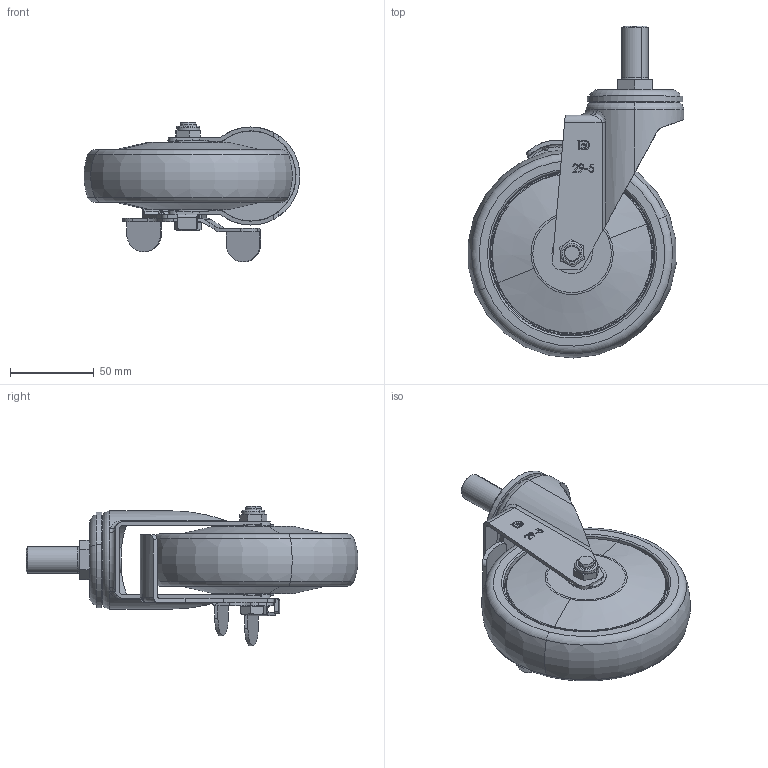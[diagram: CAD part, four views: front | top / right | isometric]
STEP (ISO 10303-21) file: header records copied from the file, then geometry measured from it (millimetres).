
FILE_DESCRIPTION (( 'STEP AP203' ), '1' );
FILE_NAME ('4112905004027-7.STEP', '2025-02-03T00:43:56', ( '' ), ( '' ), 'SwSTEP 2.0', 'SolidWorks 2019', '' );
FILE_SCHEMA (( 'CONFIG_CONTROL_DESIGN' ));
Length unit declared in the file: millimetre
Products named in the file (12): 5PPR近-甶; 32129020500006-29系列活動牙心架-鉚合-5吋5／8吋-11牙x32L; 245042402001 墊圈-電鍍 23x15.2x2.3t_084048; 4201153208 4''''、5''''儀器輪牙心-電鍍 8分之5''''-11牙x32L; 242051239002 鐵中管(黑身) 12.7x10x40.5L; 29系列絲扣5''''腳架上珠碗-展示用; 12130170500001 30 33系列側煞踏板-電鍍; 29系列活動5''''插桿、絲扣腳架-展示用; 12130180500002-30系列側煞L片-電鍍; 245020900003 尼龍螺帽  3 8''''(對邊14x7L); 4112905004027-7; 242020962001 30系列側煞用車心(六角) 3 8''''-粗牙(14L)x9.3x59.5L
Assembly tree (11 placements, depth 3):
  4112905004027-7
    12130180500002-30系列側煞L片-電鍍
    12130170500001 30 33系列側煞踏板-電鍍
    242051239002 鐵中管(黑身) 12.7x10x40.5L
    242020962001 30系列側煞用車心(六角) 3 8''''-粗牙(14L)x9.3x59.5L
    245020900003 尼龍螺帽  3 8''''(對邊14x7L)
    5PPR近-甶
    32129020500006-29系列活動牙心架-鉚合-5吋5／8吋-11牙x32L
      29系列活動5''''插桿、絲扣腳架-展示用
      29系列絲扣5''''腳架上珠碗-展示用
      245042402001 墊圈-電鍍 23x15.2x2.3t_084048
      4201153208 4''''、5''''儀器輪牙心-電鍍 8分之5''''-11牙x32L
Bounding box: 128.8 x 198.11 x 83.5 mm (x, y, z)
Volume: 401737.3 mm3; surface area: 128370.1 mm2
Topology: 11 solids, 11 shells, 577 faces, 1478 edges, 974 vertices
Faces by surface type: plane 202, cylinder 187, cone 74, torus 67, bspline 45, sphere 2
Entity records: 22481 total; most frequent: CARTESIAN_POINT 7337, ORIENTED_EDGE 2952, DIRECTION 2845, EDGE_CURVE 1476, AXIS2_PLACEMENT_3D 1094, VERTEX_POINT 974, VECTOR 657, LINE 657
